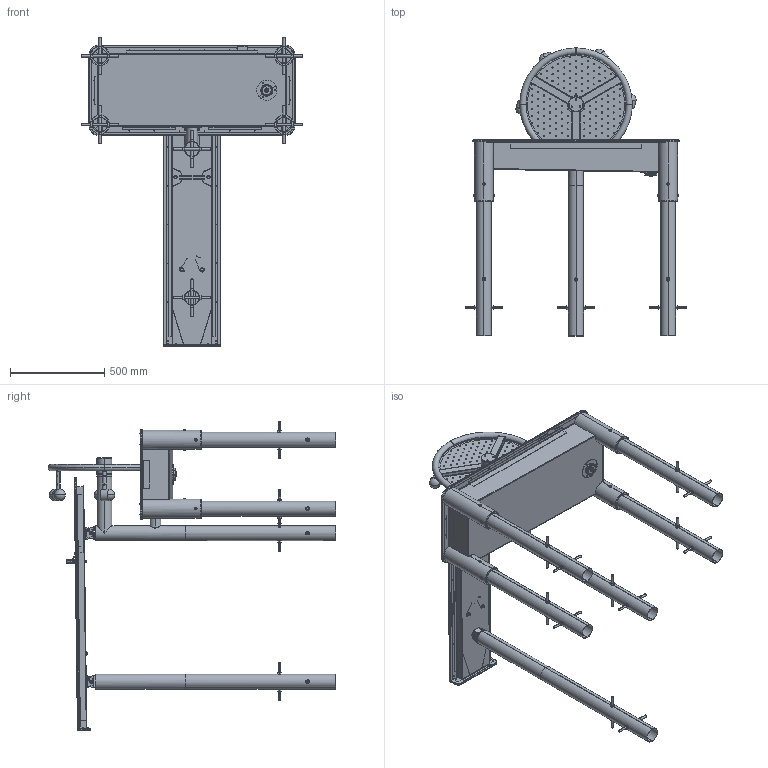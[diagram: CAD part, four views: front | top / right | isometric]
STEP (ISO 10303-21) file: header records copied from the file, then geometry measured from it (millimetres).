
FILE_DESCRIPTION (( 'STEP AP214' ), '1' );
FILE_NAME ('570.205.010.012 - Water wheel CA.STEP', '2021-03-25T08:18:18', ( '' ), ( '' ), 'SwSTEP 2.0', 'SolidWorks 2018', '' );
FILE_SCHEMA (( 'AUTOMOTIVE_DESIGN' ));
Length unit declared in the file: millimetre
Products named in the file (1): 570.205.010.012 - Water wheel CA
Bounding box: 1178 x 1529.35 x 1646.5 mm (x, y, z)
Surface area: 7982572.8 mm2 (no closed solid volume)
Topology: 0 solids, 358 shells, 1560 faces, 6112 edges, 4624 vertices
Faces by surface type: cylinder 609, plane 541, torus 142, sphere 105, cone 94, bspline 69
Entity records: 95142 total; most frequent: CARTESIAN_POINT 28346, DIRECTION 10808, ORIENTED_EDGE 8286, EDGE_CURVE 6025, VERTEX_POINT 4589, AXIS2_PLACEMENT_3D 4364, CIRCLE 2872, EDGE_LOOP 2121
